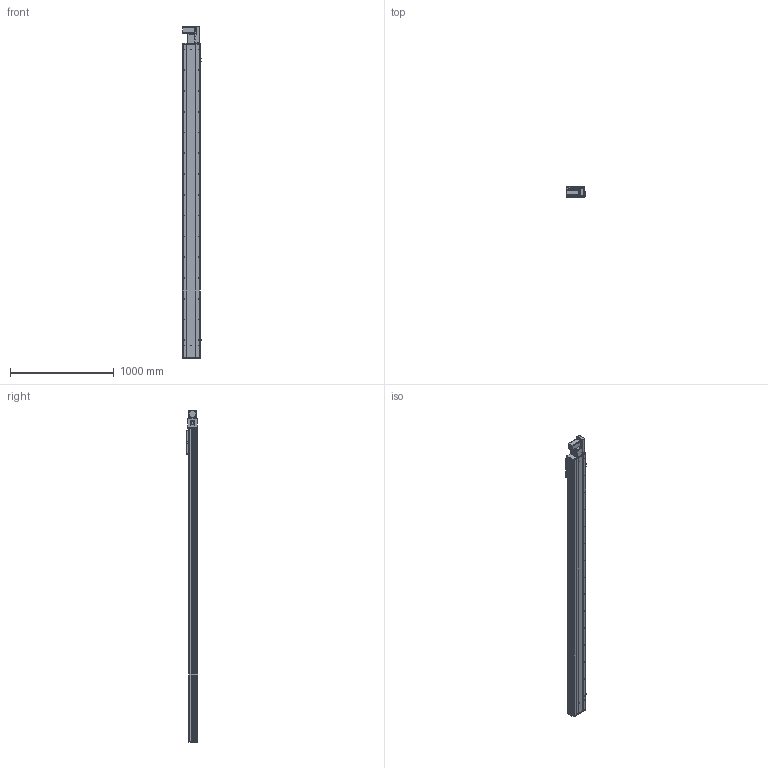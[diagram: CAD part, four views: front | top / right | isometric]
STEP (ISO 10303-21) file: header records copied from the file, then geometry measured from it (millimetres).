
FILE_DESCRIPTION (( 'STEP AP203' ), '1' );
FILE_NAME ('Y170CB-D105-S2700-BR-P400W.STEP', '2020-02-19T09:55:35', ( '微软用户' ), ( '微软中国' ), 'SwSTEP 2.0', 'SolidWorks 2017', '' );
FILE_SCHEMA (( 'CONFIG_CONTROL_DESIGN' ));
Length unit declared in the file: millimetre
Products named in the file (17): 70B喘謫眊----; B-源倛裔啣; 17B-耜蚾蟀諉啣----; 0B-萇儂楊擘啣; san松下电机400不带刹车----; Y70俋欶BR----; 70CB-掛极-; --70CB --喘謫眊楊擘啣-; 70CB-耜裔啣-; 70C--詩湍揤踡え-; 70CB--耜裔; 70C-雄赽釱-奻-; 0C--雄赽釱俋欶-170; 70CB-詩湍--; Y100-135俋离換覜ん--; Y170CB-陔俋离換覜結え---; Y170CB-D105-S2700-BR-P400W
Assembly tree (20 placements, depth 2):
  Y170CB-D105-S2700-BR-P400W
    70B喘謫眊----
    B-源倛裔啣
    17B-耜蚾蟀諉啣----
    0B-萇儂楊擘啣
    san松下电机400不带刹车----
    Y70俋欶BR----
    70CB-掛极-
    --70CB --喘謫眊楊擘啣-
    70CB-耜裔啣-  x2
    70C--詩湍揤踡え-  x2
    70CB--耜裔
    70C-雄赽釱-奻-
    0C--雄赽釱俋欶-170
    70CB-詩湍--
    Y100-135俋离換覜ん--  x3
    Y170CB-陔俋离換覜結え---
Bounding box: 183.5 x 107 x 3197 mm (x, y, z)
Volume: 13225217 mm3; surface area: 4771081.3 mm2
Topology: 20 solids, 20 shells, 1065 faces, 2873 edges, 1906 vertices
Faces by surface type: cylinder 579, plane 462, cone 24
Entity records: 34087 total; most frequent: CARTESIAN_POINT 6321, DIRECTION 5548, ORIENTED_EDGE 5228, EDGE_CURVE 2614, AXIS2_PLACEMENT_3D 2045, VERTEX_POINT 1736, LINE 1458, VECTOR 1458
